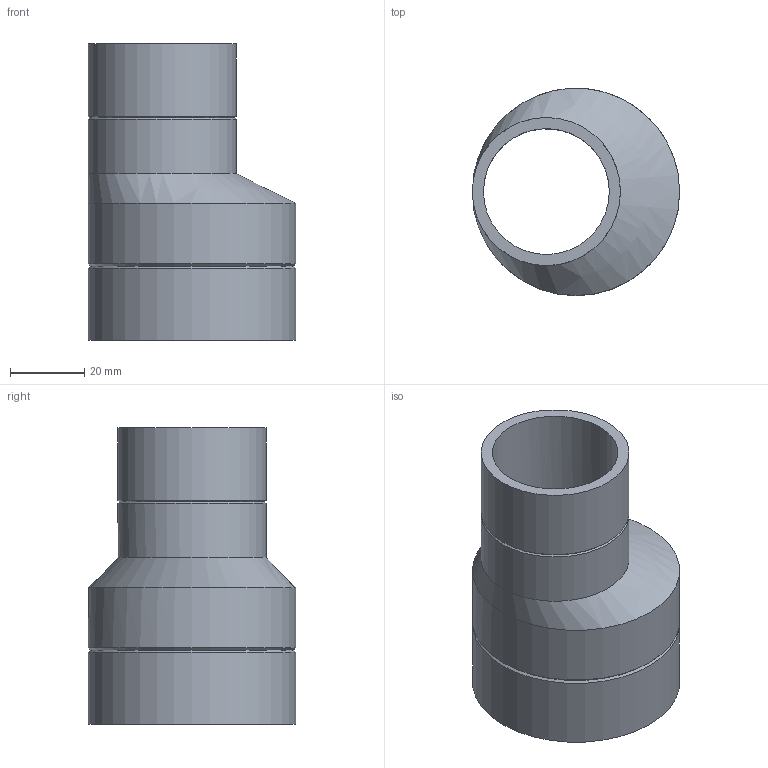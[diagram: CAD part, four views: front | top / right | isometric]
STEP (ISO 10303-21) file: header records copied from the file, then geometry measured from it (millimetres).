
FILE_DESCRIPTION(/* description */ (''),/* implementation_level */ '2;1');
FILE_NAME(/* name */ 'Z:\Geberit\Export\NewStep\363558.stp',/* time_stamp */ '2014-04-01T21:09:18+02:00',/* author */ ('nelson'),/* organization */ (''),/* preprocessor_version */ 'ST-DEVELOPER v15.2',/* originating_system */ 'Autodesk Inventor 2014',/* authorisation */ '');
FILE_SCHEMA (('AUTOMOTIVE_DESIGN { 1 0 10303 214 3 1 1 }'));
Length unit declared in the file: millimetre
Products named in the file (1): 363558
Bounding box: 56 x 56 x 80 mm (x, y, z)
Volume: 34004.7 mm3; surface area: 24848 mm2
Topology: 1 solids, 1 shells, 14 faces, 35 edges, 23 vertices
Faces by surface type: cylinder 6, cone 4, bspline 2, plane 2
Full cylindrical faces by diameter (mm): 34 x1, 40 x2, 50 x1, 56 x2
Entity records: 397 total; most frequent: CARTESIAN_POINT 89, DIRECTION 62, ORIENTED_EDGE 40, AXIS2_PLACEMENT_3D 31, EDGE_LOOP 26, EDGE_CURVE 20, CIRCLE 18, VERTEX_POINT 18
